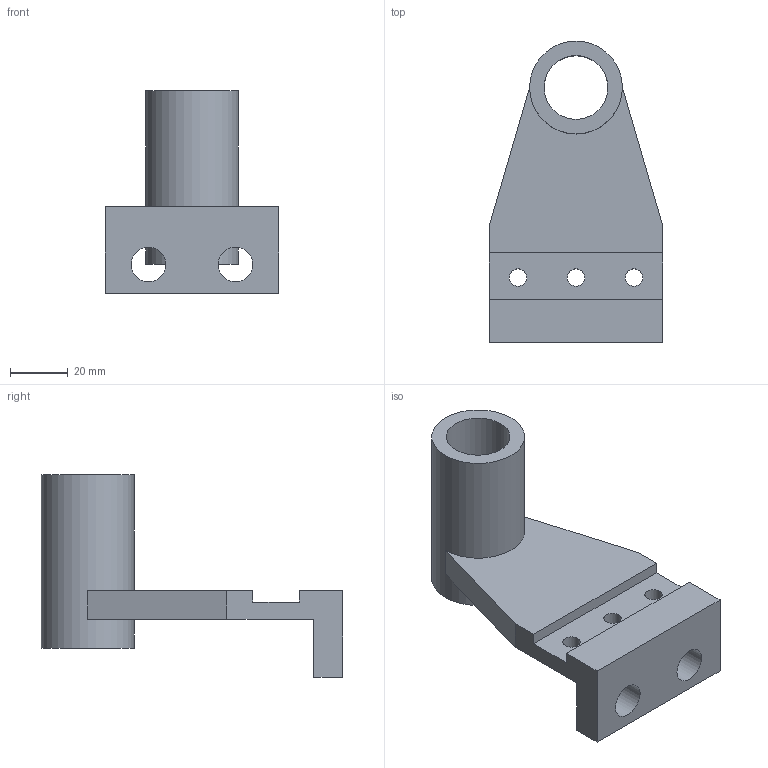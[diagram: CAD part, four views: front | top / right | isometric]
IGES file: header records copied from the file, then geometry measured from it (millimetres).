
Global section: file name: No Iges File Name specified; native system: Autodesk Inventor 2012; preprocessor: AutoDesk Inventor Iges Exporter R2012; author: cadcim; date: 20111120.224610; units: millimetre
Bounding box: 60 x 104 x 70 mm (x, y, z)
Volume: 72894.8 mm3; surface area: 24959.3 mm2
Topology: 1 solids, 1 shells, 22 faces, 58 edges, 38 vertices
Faces by surface type: plane 15, revolution 6, cylinder 1
Full cylindrical faces by diameter (mm): 32 x1
